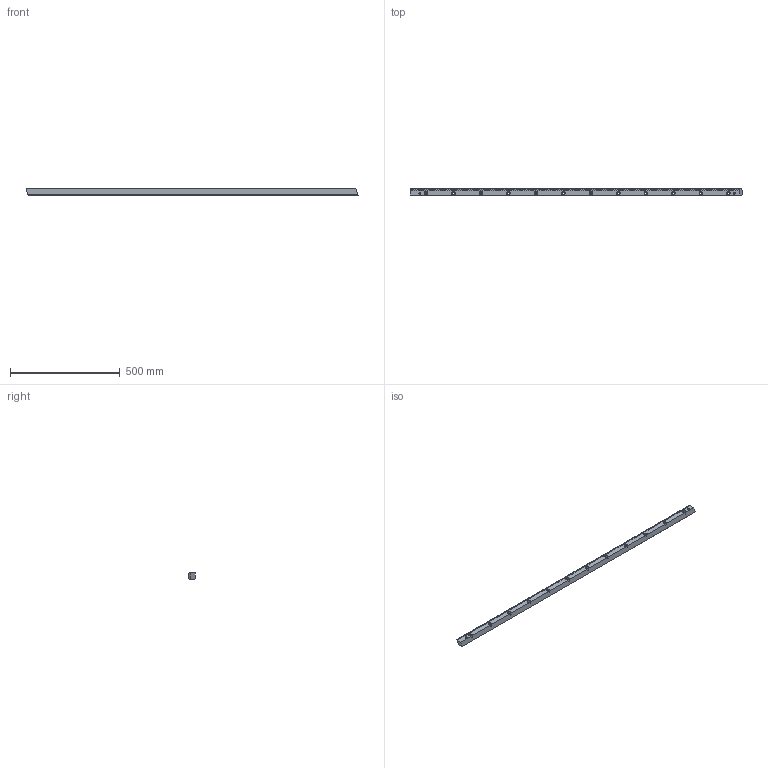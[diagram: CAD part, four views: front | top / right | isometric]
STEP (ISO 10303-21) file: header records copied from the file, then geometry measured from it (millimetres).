
FILE_DESCRIPTION (( 'STEP AP214' ), '1' );
FILE_NAME ('1HR16R030150H.STEP', '2021-12-06T11:09:21', ( '' ), ( '' ), 'SwSTEP 2.0', 'SolidWorks 2021', '' );
FILE_SCHEMA (( 'AUTOMOTIVE_DESIGN' ));
Length unit declared in the file: millimetre
Products named in the file (1): 1HR16R030150H
Bounding box: 1510.29 x 29 x 29 mm (x, y, z)
Volume: 1077841.9 mm3; surface area: 216790.6 mm2
Topology: 1 solids, 1 shells, 1623 faces, 4775 edges, 3166 vertices
Faces by surface type: plane 919, cylinder 652, cone 52
Entity records: 53019 total; most frequent: CARTESIAN_POINT 13165, ORIENTED_EDGE 9550, DIRECTION 6979, EDGE_CURVE 4775, VECTOR 3419, LINE 3419, VERTEX_POINT 3166, AXIS2_PLACEMENT_3D 1780
